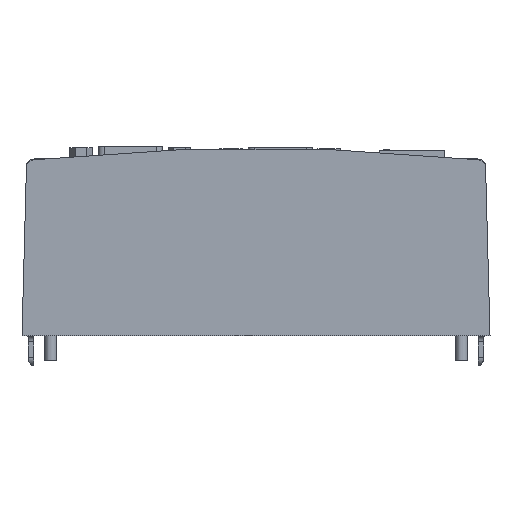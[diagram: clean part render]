
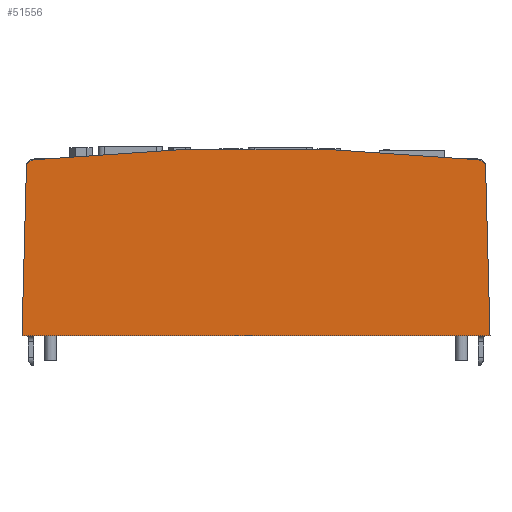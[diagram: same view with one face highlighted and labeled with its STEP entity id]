
A CAD part, left-side view. The second image highlights one B-rep face of the part: STEP entity #51556.
In plain terms, the highlighted planar face has unit normal (-1, 0, 0).
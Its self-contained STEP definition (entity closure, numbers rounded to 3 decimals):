
#1863=PLANE('',#54179);
#5048=FACE_OUTER_BOUND('',#7958,.T.);
#7958=EDGE_LOOP('',(#44468,#44469,#44470,#44471,#44472,#44473));
#13989=LINE('',#84071,#19037);
#13994=LINE('',#84088,#19042);
#13996=LINE('',#84093,#19044);
#19037=VECTOR('',#63321,10.);
#19042=VECTOR('',#63338,10.);
#19044=VECTOR('',#63346,10.);
#20258=CIRCLE('',#54167,2.);
#20262=CIRCLE('',#54174,2.);
#20263=CIRCLE('',#54177,550.);
#24511=VERTEX_POINT('',#84058);
#24512=VERTEX_POINT('',#84059);
#24516=VERTEX_POINT('',#84069);
#24520=VERTEX_POINT('',#84081);
#24521=VERTEX_POINT('',#84082);
#24522=VERTEX_POINT('',#84087);
#31259=EDGE_CURVE('',#24511,#24512,#20258,.T.);
#31265=EDGE_CURVE('',#24516,#24511,#13989,.T.);
#31270=EDGE_CURVE('',#24520,#24521,#20262,.T.);
#31273=EDGE_CURVE('',#24521,#24522,#13994,.T.);
#31275=EDGE_CURVE('',#24512,#24520,#20263,.T.);
#31276=EDGE_CURVE('',#24522,#24516,#13996,.T.);
#44468=ORIENTED_EDGE('',*,*,#31259,.F.);
#44469=ORIENTED_EDGE('',*,*,#31265,.F.);
#44470=ORIENTED_EDGE('',*,*,#31276,.F.);
#44471=ORIENTED_EDGE('',*,*,#31273,.F.);
#44472=ORIENTED_EDGE('',*,*,#31270,.F.);
#44473=ORIENTED_EDGE('',*,*,#31275,.F.);
#51556=ADVANCED_FACE('',(#5048),#1863,.T.);
#54167=AXIS2_PLACEMENT_3D('',#84060,#63311,#63312);
#54174=AXIS2_PLACEMENT_3D('',#84083,#63332,#63333);
#54177=AXIS2_PLACEMENT_3D('',#84091,#63342,#63343);
#54179=AXIS2_PLACEMENT_3D('',#84094,#63347,#63348);
#63311=DIRECTION('center_axis',(1.,0.,0.));
#63312=DIRECTION('ref_axis',(0.,0.734,0.679));
#63321=DIRECTION('',(0.,-0.026,1.));
#63332=DIRECTION('center_axis',(1.,0.,0.));
#63333=DIRECTION('ref_axis',(0.,-0.734,0.679));
#63338=DIRECTION('',(0.,-0.026,-1.));
#63342=DIRECTION('center_axis',(1.,0.,0.));
#63343=DIRECTION('ref_axis',(0.,-0.106,0.994));
#63346=DIRECTION('',(0.,1.,0.));
#63347=DIRECTION('center_axis',(-1.,0.,0.));
#63348=DIRECTION('ref_axis',(0.,0.,
1.));
#84058=CARTESIAN_POINT('',(-27.,110.628,42.844));
#84059=CARTESIAN_POINT('',(-27.,108.835,44.782));
#84060=CARTESIAN_POINT('Origin',(-27.,108.629,42.792));
#84069=CARTESIAN_POINT('',(-27.,111.75,0.));
#84071=CARTESIAN_POINT('',(-27.,110.582,44.598));
#84081=CARTESIAN_POINT('',(-27.,-4.335,44.782));
#84082=CARTESIAN_POINT('',(-27.,-6.128,42.844));
#84083=CARTESIAN_POINT('Origin',(-27.,-4.129,42.792));
#84087=CARTESIAN_POINT('',(-27.,-7.25,0.));
#84088=CARTESIAN_POINT('',(-27.,-7.25,0.));
#84091=CARTESIAN_POINT('Origin',(-27.,52.25,-502.3));
#84093=CARTESIAN_POINT('',(-27.,111.75,0.));
#84094=CARTESIAN_POINT('Origin',(-27.,52.25,22.823));
